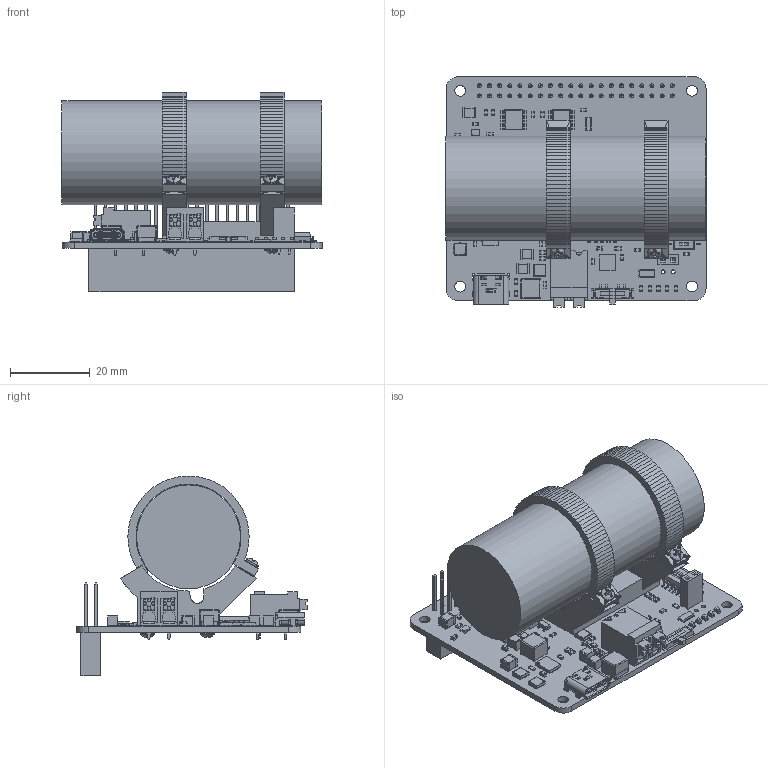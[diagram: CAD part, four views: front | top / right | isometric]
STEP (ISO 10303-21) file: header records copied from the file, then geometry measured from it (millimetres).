
FILE_DESCRIPTION(('FreeCAD Model'),'2;1');
FILE_NAME('Open CASCADE Shape Model','2026-04-28T20:14:18',(''),(''), 'Open CASCADE STEP processor 7.8','FreeCAD','Unknown');
FILE_SCHEMA(('AUTOMOTIVE_DESIGN { 1 0 10303 214 1 1 1 1 }'));
Length unit declared in the file: millimetre
Products named in the file (260): qUPS-P-BC-v2.0; Components; Fusion; Fusion001; Fusion002; Fusion003; Fusion004; Fusion005; Fusion006; Fusion007; Fusion008; Fusion009; Fusion010; Fusion011; Fusion012; Fusion013; Fusion014; Fusion015; Fusion016; Fusion017; Fusion018; Fusion019; Fusion020; Fusion021; Fusion022; Fusion023; Fusion024; Fusion025; Fusion026; Fusion027; Fusion028; Fusion029; Fusion030; Fusion031; Fusion032; Fusion033; Fusion034; Fusion035; Fusion036; Fusion037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
Assembly tree (259 placements, depth 3):
  qUPS-P-BC-v2.0
    Components
      Fusion
      Fusion001
      Fusion002
      Fusion003
      Fusion004
      Fusion005
      Fusion006
      Fusion007
      Fusion008
      Fusion009
      Fusion010
      Fusion011
      Fusion012
      Fusion013
      Fusion014
      Fusion015
      Fusion016
      Fusion017
      Fusion018
      Fusion019
      Fusion020
      Fusion021
      Fusion022
      Fusion023
      Fusion024
      Fusion025
      Fusion026
      Fusion027
      Fusion028
      Fusion029
      Fusion030
      Fusion031
      Fusion032
      Fusion033
      Fusion034
      Fusion035
      Fusion036
      Fusion037
      Fusion038
      Fusion039
      Fusion040
      Fusion041
      Fusion042
      Fusion043
      Fusion044
      Fusion045
      Fusion046
      Fusion047
      Fusion048
      Fusion049
      Fusion050
      Fusion051
      Fusion052
      Fusion053
      Fusion054
      Fusion055
      Fusion056
      Fusion057
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Bounding box: 65.05 x 57.65 x 49.98 mm (x, y, z)
Volume: 51726 mm3; surface area: 28361.7 mm2
Topology: 257 solids, 257 shells, 11531 faces, 27417 edges, 16471 vertices
Faces by surface type: plane 9633, cylinder 1511, bspline 225, cone 96, sphere 24, torus 24, revolution 18
Full cylindrical faces by diameter (mm): 0.165 x2, 0.202 x1, 0.203 x1, 0.25 x6, 0.3 x8, 0.4 x6, 0.5 x3, 0.6 x2, 0.8 x2, 0.9 x2, 1 x44, 1.2 x8, 1.3 x4, 2.1 x4, 2.7 x4, 26 x1
Entity records: 344525 total; most frequent: CARTESIAN_POINT 74872, ORIENTED_EDGE 54766, DIRECTION 52494, EDGE_CURVE 27383, LINE 23182, VECTOR 23182, VERTEX_POINT 16471, AXIS2_PLACEMENT_3D 14647
